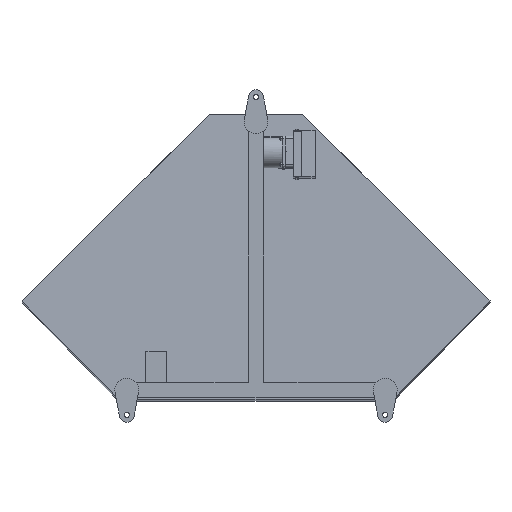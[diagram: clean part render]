
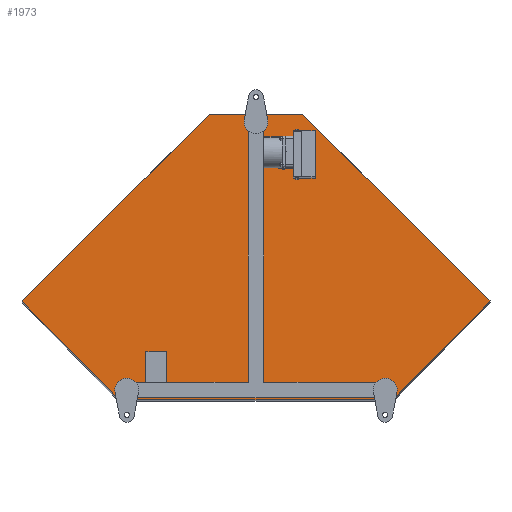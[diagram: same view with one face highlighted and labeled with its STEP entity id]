
A CAD part, front view. The second image highlights one B-rep face of the part: STEP entity #1973.
In plain terms, the highlighted planar face has unit normal (0, -0.999, 0.034).
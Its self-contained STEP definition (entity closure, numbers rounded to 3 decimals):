
#1973=ADVANCED_FACE('',(#6219),#6218,.T.);
#6218=PLANE('',#15562);
#6219=FACE_OUTER_BOUND('',#15563,.T.);
#15559=CARTESIAN_POINT('',(-607.505,-89.026,-110.006));
#15560=DIRECTION('',(0.,-0.999,0.034));
#15561=DIRECTION('',(0.,-0.034,-0.999));
#15562=AXIS2_PLACEMENT_3D('',#15559,#15560,#15561);
#15563=EDGE_LOOP('',(#22161,#22162,#22163,#22164,#22165,#22166));
#22161=ORIENTED_EDGE('',*,*,#26326,.T.);
#22162=ORIENTED_EDGE('',*,*,#26322,.T.);
#22163=ORIENTED_EDGE('',*,*,#26319,.T.);
#22164=ORIENTED_EDGE('',*,*,#26315,.T.);
#22165=ORIENTED_EDGE('',*,*,#26317,.T.);
#22166=ORIENTED_EDGE('',*,*,#26325,.T.);
#26315=EDGE_CURVE('',#33870,#33877,#33884,.T.);
#26317=EDGE_CURVE('',#33877,#33890,#33897,.T.);
#26319=EDGE_CURVE('',#33903,#33870,#33910,.T.);
#26322=EDGE_CURVE('',#33928,#33903,#33929,.T.);
#26325=EDGE_CURVE('',#33890,#33941,#33948,.T.);
#26326=EDGE_CURVE('',#33941,#33928,#33954,.T.);
#33870=VERTEX_POINT('',#50864);
#33877=VERTEX_POINT('',#50868);
#33884=LINE('',#50872,#50873);
#33890=VERTEX_POINT('',#50875);
#33897=LINE('',#50879,#50880);
#33903=VERTEX_POINT('',#50882);
#33910=LINE('',#50886,#50887);
#33928=VERTEX_POINT('',#50895);
#33929=LINE('',#50896,#50897);
#33941=VERTEX_POINT('',#50902);
#33948=LINE('',#50906,#50907);
#33954=LINE('',#50909,#50910);
#50864=CARTESIAN_POINT('',(-350.,-113.912,-849.587));
#50868=CARTESIAN_POINT('',(350.,-113.912,-849.587));
#50872=CARTESIAN_POINT('',(-350.,-113.912,-849.587));
#50873=VECTOR('',#50874,700.);
#50874=DIRECTION('',(1.,0.,0.));
#50875=CARTESIAN_POINT('',(597.505,-105.421,-597.235));
#50879=CARTESIAN_POINT('',(350.,-113.912,-849.587));
#50880=VECTOR('',#50881,353.571);
#50881=DIRECTION('',(0.7,0.024,0.714));
#50882=CARTESIAN_POINT('',(-597.505,-105.421,-597.235));
#50886=CARTESIAN_POINT('',(-597.505,-105.421,-597.235));
#50887=VECTOR('',#50888,353.571);
#50888=DIRECTION('',(0.7,-0.024,-0.714));
#50895=CARTESIAN_POINT('',(-120.,-89.362,-120.));
#50896=CARTESIAN_POINT('',(-120.,-89.362,-120.));
#50897=VECTOR('',#50898,675.294);
#50898=DIRECTION('',(-0.707,-0.024,-0.707));
#50902=CARTESIAN_POINT('',(120.,-89.362,-120.));
#50906=CARTESIAN_POINT('',(597.505,-105.421,-597.235));
#50907=VECTOR('',#50908,675.294);
#50908=DIRECTION('',(-0.707,0.024,0.707));
#50909=CARTESIAN_POINT('',(120.,-89.362,-120.));
#50910=VECTOR('',#50911,240.);
#50911=DIRECTION('',(-1.,0.,0.));
